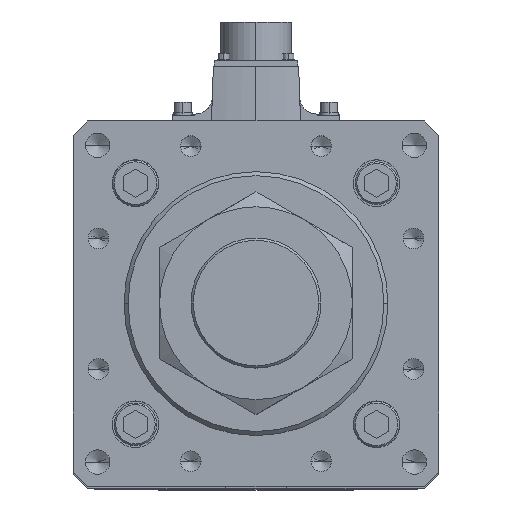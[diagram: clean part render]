
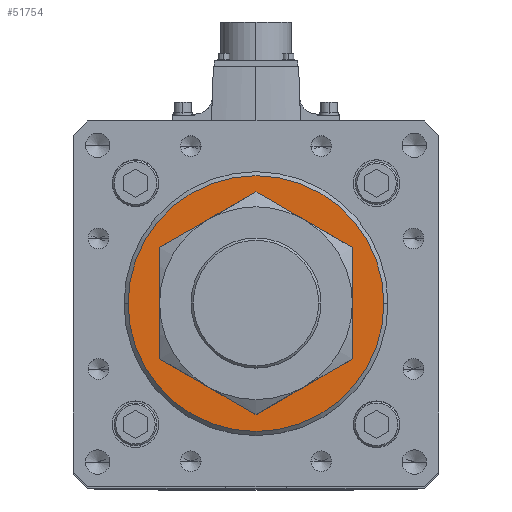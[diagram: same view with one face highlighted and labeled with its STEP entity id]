
A CAD part, top view. The second image highlights one B-rep face of the part: STEP entity #51754.
In plain terms, the highlighted planar face has unit normal (0, 0, 1).
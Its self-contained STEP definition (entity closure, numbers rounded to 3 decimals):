
#2985 = CARTESIAN_POINT ( 'NONE',  ( 0., 0., 612. ) ) ;
#3225 = FACE_OUTER_BOUND ( 'NONE', #48831, .T. ) ;
#7149 = CIRCLE ( 'NONE', #47077, 63. ) ;
#8210 = EDGE_CURVE ( 'NONE', #41916, #55289, #7149, .T. ) ;
#8319 = VERTEX_POINT ( 'NONE', #46751 ) ;
#11361 = AXIS2_PLACEMENT_3D ( 'NONE', #30780, #43438, #51973 ) ;
#11618 = AXIS2_PLACEMENT_3D ( 'NONE', #35944, #48376, #52838 ) ;
#11814 = DIRECTION ( 'NONE',  ( 1., 0., 0. ) ) ;
#14949 = EDGE_CURVE ( 'NONE', #8319, #27710, #54331, .T. ) ;
#15762 = PLANE ( 'NONE',  #19073 ) ;
#15942 = FACE_BOUND ( 'NONE', #16102, .T. ) ;
#16102 = EDGE_LOOP ( 'NONE', ( #54918, #54170 ) ) ;
#16799 = DIRECTION ( 'NONE',  ( 1., 0., 0. ) ) ;
#19073 = AXIS2_PLACEMENT_3D ( 'NONE', #49771, #28652, #11814 ) ;
#20075 = CARTESIAN_POINT ( 'NONE',  ( -63., 0., 612. ) ) ;
#20439 = ORIENTED_EDGE ( 'NONE', *, *, #8210, .T. ) ;
#23891 = EDGE_CURVE ( 'NONE', #27710, #8319, #40420, .T. ) ;
#24306 = AXIS2_PLACEMENT_3D ( 'NONE', #2985, #49553, #32892 ) ;
#27710 = VERTEX_POINT ( 'NONE', #51617 ) ;
#28532 = CARTESIAN_POINT ( 'NONE',  ( 63., 0., 612. ) ) ;
#28652 = DIRECTION ( 'NONE',  ( 0., 0., 1. ) ) ;
#30780 = CARTESIAN_POINT ( 'NONE',  ( 0., 0., 612. ) ) ;
#30913 = EDGE_CURVE ( 'NONE', #55289, #41916, #42566, .T. ) ;
#32892 = DIRECTION ( 'NONE',  ( 1., 0., 0. ) ) ;
#35944 = CARTESIAN_POINT ( 'NONE',  ( 0., 0., 612. ) ) ;
#39214 = ORIENTED_EDGE ( 'NONE', *, *, #30913, .T. ) ;
#40420 = CIRCLE ( 'NONE', #24306, 40.5 ) ;
#41203 = CARTESIAN_POINT ( 'NONE',  ( 0., 0., 612. ) ) ;
#41916 = VERTEX_POINT ( 'NONE', #20075 ) ;
#42566 = CIRCLE ( 'NONE', #11361, 63. ) ;
#43438 = DIRECTION ( 'NONE',  ( 0., 0., 1. ) ) ;
#45068 = DIRECTION ( 'NONE',  ( 0., 0., 1. ) ) ;
#46751 = CARTESIAN_POINT ( 'NONE',  ( 40.5, 0., 612. ) ) ;
#47077 = AXIS2_PLACEMENT_3D ( 'NONE', #41203, #45068, #16799 ) ;
#48376 = DIRECTION ( 'NONE',  ( 0., 0., -1. ) ) ;
#48831 = EDGE_LOOP ( 'NONE', ( #20439, #39214 ) ) ;
#49553 = DIRECTION ( 'NONE',  ( 0., 0., -1. ) ) ;
#49771 = CARTESIAN_POINT ( 'NONE',  ( 0., 0., 612. ) ) ;
#51617 = CARTESIAN_POINT ( 'NONE',  ( -40.5, 0., 612. ) ) ;
#51754 = ADVANCED_FACE ( 'NONE', ( #15942, #3225 ), #15762, .T. ) ;
#51973 = DIRECTION ( 'NONE',  ( 1., 0., 0. ) ) ;
#52838 = DIRECTION ( 'NONE',  ( 1., 0., 0. ) ) ;
#54170 = ORIENTED_EDGE ( 'NONE', *, *, #23891, .T. ) ;
#54331 = CIRCLE ( 'NONE', #11618, 40.5 ) ;
#54918 = ORIENTED_EDGE ( 'NONE', *, *, #14949, .T. ) ;
#55289 = VERTEX_POINT ( 'NONE', #28532 ) ;
